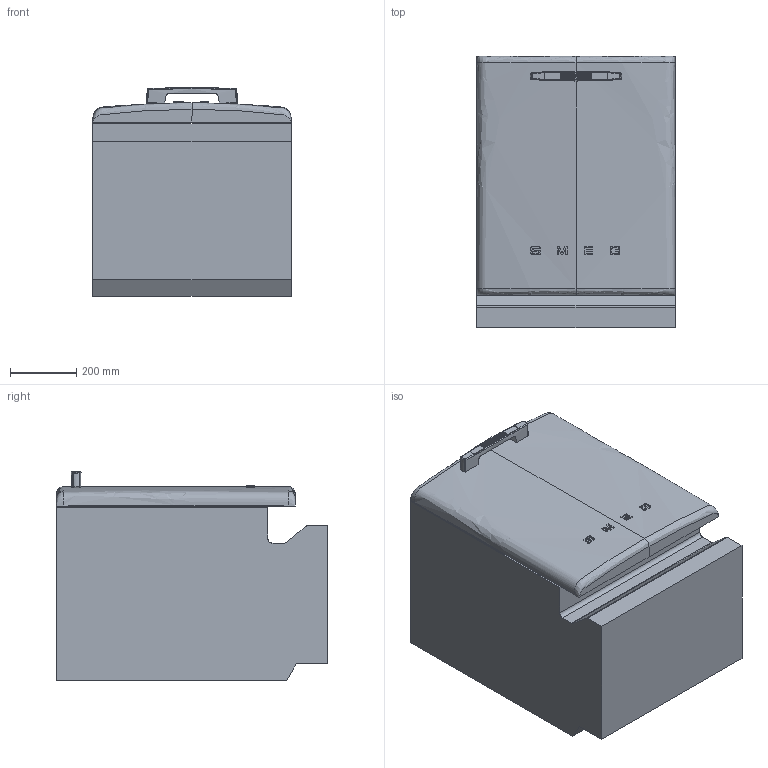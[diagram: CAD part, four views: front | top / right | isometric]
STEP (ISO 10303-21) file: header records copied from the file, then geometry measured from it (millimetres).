
FILE_DESCRIPTION (( 'STEP AP214' ), '1' );
FILE_NAME ('LVS Bombina Incasso.STEP', '2017-11-27T12:45:51', ( '' ), ( '' ), 'SwSTEP 2.0', 'SolidWorks 2016', '' );
FILE_SCHEMA (( 'AUTOMOTIVE_DESIGN' ));
Length unit declared in the file: millimetre
Products named in the file (1): LVS Bombina Incasso
Bounding box: 598.2 x 818 x 629.95 mm (x, y, z)
Volume: 265933231.8 mm3; surface area: 3469478.4 mm2
Topology: 8 solids, 8 shells, 305 faces, 829 edges, 545 vertices
Faces by surface type: bspline 121, plane 98, cylinder 82, sphere 4
Entity records: 12429 total; most frequent: CARTESIAN_POINT 5637, ORIENTED_EDGE 1658, DIRECTION 979, EDGE_CURVE 829, VERTEX_POINT 545, B_SPLINE_CURVE_WITH_KNOTS 359, EDGE_LOOP 346, AXIS2_PLACEMENT_3D 336
